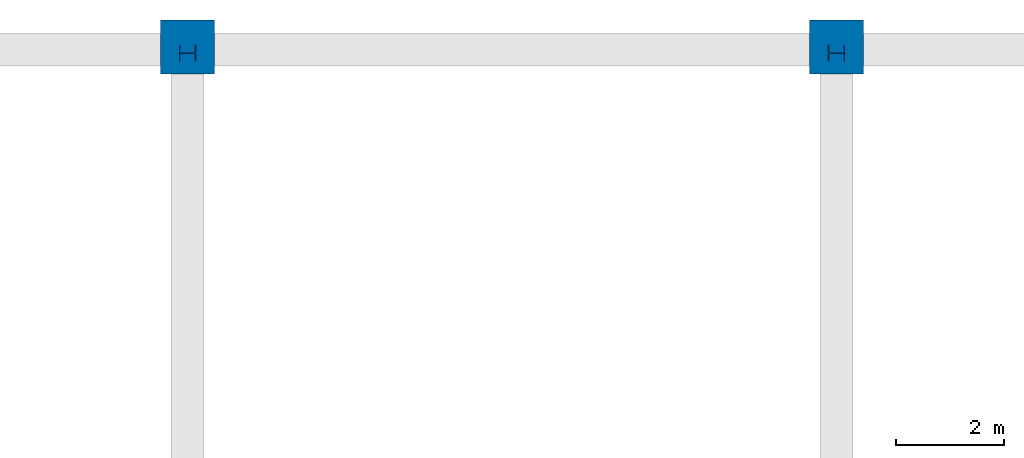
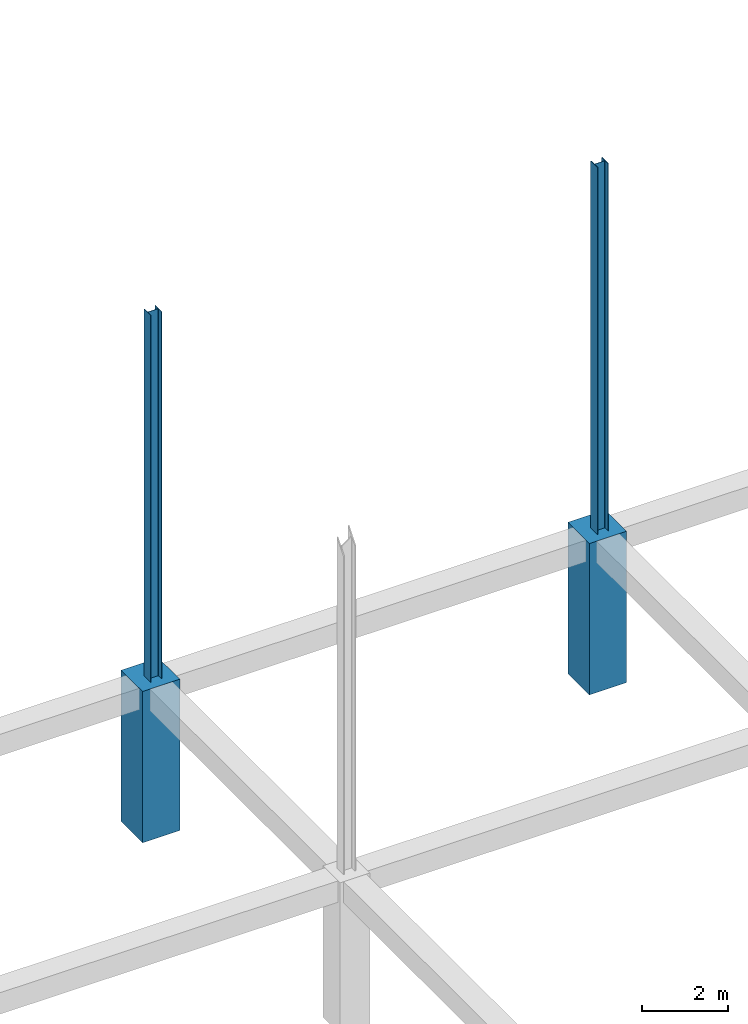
# One storey, part 5 of 19: 4 columns.
"""IFC2X3 building model written with IfcOpenShell, lengths in millimetres."""

from ifc_helpers import new_model, si_unit, origin, place, context, project, spatial, faceted_brep, material, element, save


model = new_model("IFC2X3")

# Units and contexts
context_of_model = context(None, 3, precision=1e-05, world=origin())
ifc_project = project(units=[si_unit("LENGTHUNIT", "METRE", prefix="MILLI")], contexts=[context_of_model])

# Building, storey
building = spatial("IfcBuilding", under=ifc_project, Name="Building", CompositionType="ELEMENT")
storey = spatial("IfcBuildingStorey", under=building, Name="FL2-FRM", CompositionType="ELEMENT")

# Columns
ifc_material_1 = material(Name="C5000")
column_1_placement = place(None, origin())
element("IfcColumn", 1, at=column_1_placement, inside=storey, material=ifc_material_1, Name="Column176", context=context_of_model, shape_type="Brep", body=[
    faceted_brep([(-11500.0, 35617.7, 0.0), (-11500.0, 36617.8, 0.0), (-11500.0, 36617.8, 4296.8), (-11500.0, 35617.7, 4296.8), (-12500.0, 36617.8, 0.0), (-12500.0, 36617.8, 4296.8), (-12500.0, 35617.7, 0.0), (-12500.0, 35617.7, 4296.8)], [[[0, 1, 2, 3]], [[1, 4, 5, 2]], [[4, 6, 7, 5]], [[6, 0, 3, 7]], [[0, 6, 4, 1]], [[3, 2, 5, 7]]]),
])
ifc_material_2 = material(Name="C5000")
column_2_placement = place(None, origin())
element("IfcColumn", 2, at=column_2_placement, inside=storey, material=ifc_material_2, Name="Column177", context=context_of_model, shape_type="Brep", body=[
    faceted_brep([(-23500.0, 35617.7, 0.0), (-23500.0, 36617.8, 0.0), (-23500.0, 36617.8, 4296.8), (-23500.0, 35617.7, 4296.8), (-24500.0, 36617.8, 0.0), (-24500.0, 36617.8, 4296.8), (-24500.0, 35617.7, 0.0), (-24500.0, 35617.7, 4296.8)], [[[0, 1, 2, 3]], [[1, 4, 5, 2]], [[4, 6, 7, 5]], [[6, 0, 3, 7]], [[0, 6, 4, 1]], [[3, 2, 5, 7]]]),
])
ifc_material_3 = material(Name="A992")
column_3_placement = place(None, origin())
element("IfcColumn", 3, at=column_3_placement, inside=storey, material=ifc_material_3, Name="Column284", context=context_of_model, shape_type="Brep", body=[
    faceted_brep([(-23846.0, 35847.5, 4296.8), (-23846.0, 36152.5, 4296.8), (-23846.0, 36152.5, 14719.2), (-23846.0, 35847.5, 14719.2), (-23861.4, 36152.5, 4296.8), (-23861.4, 36152.5, 14719.2), (-23861.4, 36020.1, 4296.8), (-23861.4, 36020.1, 14719.2), (-23861.9, 36016.2, 4296.8), (-23861.9, 36016.2, 14719.2), (-23863.4, 36012.5, 4296.8), (-23863.4, 36012.5, 14719.2), (-23865.9, 36009.4, 4296.8), (-23865.9, 36009.4, 14719.2), (-23869.0, 36007.0, 4296.8), (-23869.0, 36007.0, 14719.2), (-23872.7, 36005.5, 4296.8), (-23872.7, 36005.5, 14719.2), (-23876.6, 36004.9, 4296.8), (-23876.6, 36004.9, 14719.2), (-24123.4, 36004.9, 4296.8), (-24123.4, 36004.9, 14719.2), (-24127.3, 36005.5, 4296.8), (-24127.3, 36005.5, 14719.2), (-24131.0, 36007.0, 4296.8), (-24131.0, 36007.0, 14719.2), (-24134.1, 36009.4, 4296.8), (-24134.1, 36009.4, 14719.2), (-24136.6, 36012.5, 4296.8), (-24136.6, 36012.5, 14719.2), (-24138.1, 36016.2, 4296.8), (-24138.1, 36016.2, 14719.2), (-24138.6, 36020.1, 4296.8), (-24138.6, 36020.1, 14719.2), (-24138.6, 36152.5, 4296.8), (-24138.6, 36152.5, 14719.2), (-24154.0, 36152.5, 4296.8), (-24154.0, 36152.5, 14719.2), (-24154.0, 35847.5, 4296.8), (-24154.0, 35847.5, 14719.2), (-24138.6, 35847.5, 4296.8), (-24138.6, 35847.5, 14719.2), (-24138.6, 35979.9, 4296.8), (-24138.6, 35979.9, 14719.2), (-24138.1, 35983.8, 4296.8), (-24138.1, 35983.8, 14719.2), (-24136.6, 35987.5, 4296.8), (-24136.6, 35987.5, 14719.2), (-24134.1, 35990.6, 4296.8), (-24134.1, 35990.6, 14719.2), (-24131.0, 35993.0, 4296.8), (-24131.0, 35993.0, 14719.2), (-24127.3, 35994.5, 4296.8), (-24127.3, 35994.5, 14719.2), (-24123.4, 35995.1, 4296.8), (-24123.4, 35995.1, 14719.2), (-23876.6, 35995.1, 4296.8), (-23876.6, 35995.1, 14719.2), (-23872.7, 35994.5, 4296.8), (-23872.7, 35994.5, 14719.2), (-23869.0, 35993.0, 4296.8), (-23869.0, 35993.0, 14719.2), (-23865.9, 35990.6, 4296.8), (-23865.9, 35990.6, 14719.2), (-23863.4, 35987.5, 4296.8), (-23863.4, 35987.5, 14719.2), (-23861.9, 35983.8, 4296.8), (-23861.9, 35983.8, 14719.2), (-23861.4, 35979.9, 4296.8), (-23861.4, 35979.9, 14719.2), (-23861.4, 35847.5, 4296.8), (-23861.4, 35847.5, 14719.2)], [[[0, 1, 2, 3]], [[1, 4, 5, 2]], [[4, 6, 7, 5]], [[6, 8, 9, 7]], [[8, 10, 11, 9]], [[10, 12, 13, 11]], [[12, 14, 15, 13]], [[14, 16, 17, 15]], [[16, 18, 19, 17]], [[18, 20, 21, 19]], [[20, 22, 23, 21]], [[22, 24, 25, 23]], [[24, 26, 27, 25]], [[26, 28, 29, 27]], [[28, 30, 31, 29]], [[30, 32, 33, 31]], [[32, 34, 35, 33]], [[34, 36, 37, 35]], [[36, 38, 39, 37]], [[38, 40, 41, 39]], [[40, 42, 43, 41]], [[42, 44, 45, 43]], [[44, 46, 47, 45]], [[46, 48, 49, 47]], [[48, 50, 51, 49]], [[50, 52, 53, 51]], [[52, 54, 55, 53]], [[54, 56, 57, 55]], [[56, 58, 59, 57]], [[58, 60, 61, 59]], [[60, 62, 63, 61]], [[62, 64, 65, 63]], [[64, 66, 67, 65]], [[66, 68, 69, 67]], [[68, 70, 71, 69]], [[70, 0, 3, 71]], [[0, 70, 68, 66, 64, 62, 60, 58, 56, 54, 52, 50, 48, 46, 44, 42, 40, 38, 36, 34, 32, 30, 28, 26, 24, 22, 20, 18, 16, 14, 12, 10, 8, 6, 4, 1]], [[3, 2, 5, 7, 9, 11, 13, 15, 17, 19, 21, 23, 25, 27, 29, 31, 33, 35, 37, 39, 41, 43, 45, 47, 49, 51, 53, 55, 57, 59, 61, 63, 65, 67, 69, 71]]]),
])
ifc_material_4 = material(Name="A992")
column_4_placement = place(None, origin())
element("IfcColumn", 4, at=column_4_placement, inside=storey, material=ifc_material_4, Name="Column290", context=context_of_model, shape_type="Brep", body=[
    faceted_brep([(-11846.0, 35847.5, 4296.8), (-11846.0, 36152.5, 4296.8), (-11846.0, 36152.5, 14719.2), (-11846.0, 35847.5, 14719.2), (-11861.4, 36152.5, 4296.8), (-11861.4, 36152.5, 14719.2), (-11861.4, 36020.1, 4296.8), (-11861.4, 36020.1, 14719.2), (-11861.9, 36016.2, 4296.8), (-11861.9, 36016.2, 14719.2), (-11863.4, 36012.5, 4296.8), (-11863.4, 36012.5, 14719.2), (-11865.9, 36009.4, 4296.8), (-11865.9, 36009.4, 14719.2), (-11869.0, 36007.0, 4296.8), (-11869.0, 36007.0, 14719.2), (-11872.7, 36005.5, 4296.8), (-11872.7, 36005.5, 14719.2), (-11876.6, 36004.9, 4296.8), (-11876.6, 36004.9, 14719.2), (-12123.4, 36004.9, 4296.8), (-12123.4, 36004.9, 14719.2), (-12127.3, 36005.5, 4296.8), (-12127.3, 36005.5, 14719.2), (-12131.0, 36007.0, 4296.8), (-12131.0, 36007.0, 14719.2), (-12134.1, 36009.4, 4296.8), (-12134.1, 36009.4, 14719.2), (-12136.6, 36012.5, 4296.8), (-12136.6, 36012.5, 14719.2), (-12138.1, 36016.2, 4296.8), (-12138.1, 36016.2, 14719.2), (-12138.6, 36020.1, 4296.8), (-12138.6, 36020.1, 14719.2), (-12138.6, 36152.5, 4296.8), (-12138.6, 36152.5, 14719.2), (-12154.0, 36152.5, 4296.8), (-12154.0, 36152.5, 14719.2), (-12154.0, 35847.5, 4296.8), (-12154.0, 35847.5, 14719.2), (-12138.6, 35847.5, 4296.8), (-12138.6, 35847.5, 14719.2), (-12138.6, 35979.9, 4296.8), (-12138.6, 35979.9, 14719.2), (-12138.1, 35983.8, 4296.8), (-12138.1, 35983.8, 14719.2), (-12136.6, 35987.5, 4296.8), (-12136.6, 35987.5, 14719.2), (-12134.1, 35990.6, 4296.8), (-12134.1, 35990.6, 14719.2), (-12131.0, 35993.0, 4296.8), (-12131.0, 35993.0, 14719.2), (-12127.3, 35994.5, 4296.8), (-12127.3, 35994.5, 14719.2), (-12123.4, 35995.1, 4296.8), (-12123.4, 35995.1, 14719.2), (-11876.6, 35995.1, 4296.8), (-11876.6, 35995.1, 14719.2), (-11872.7, 35994.5, 4296.8), (-11872.7, 35994.5, 14719.2), (-11869.0, 35993.0, 4296.8), (-11869.0, 35993.0, 14719.2), (-11865.9, 35990.6, 4296.8), (-11865.9, 35990.6, 14719.2), (-11863.4, 35987.5, 4296.8), (-11863.4, 35987.5, 14719.2), (-11861.9, 35983.8, 4296.8), (-11861.9, 35983.8, 14719.2), (-11861.4, 35979.9, 4296.8), (-11861.4, 35979.9, 14719.2), (-11861.4, 35847.5, 4296.8), (-11861.4, 35847.5, 14719.2)], [[[0, 1, 2, 3]], [[1, 4, 5, 2]], [[4, 6, 7, 5]], [[6, 8, 9, 7]], [[8, 10, 11, 9]], [[10, 12, 13, 11]], [[12, 14, 15, 13]], [[14, 16, 17, 15]], [[16, 18, 19, 17]], [[18, 20, 21, 19]], [[20, 22, 23, 21]], [[22, 24, 25, 23]], [[24, 26, 27, 25]], [[26, 28, 29, 27]], [[28, 30, 31, 29]], [[30, 32, 33, 31]], [[32, 34, 35, 33]], [[34, 36, 37, 35]], [[36, 38, 39, 37]], [[38, 40, 41, 39]], [[40, 42, 43, 41]], [[42, 44, 45, 43]], [[44, 46, 47, 45]], [[46, 48, 49, 47]], [[48, 50, 51, 49]], [[50, 52, 53, 51]], [[52, 54, 55, 53]], [[54, 56, 57, 55]], [[56, 58, 59, 57]], [[58, 60, 61, 59]], [[60, 62, 63, 61]], [[62, 64, 65, 63]], [[64, 66, 67, 65]], [[66, 68, 69, 67]], [[68, 70, 71, 69]], [[70, 0, 3, 71]], [[0, 70, 68, 66, 64, 62, 60, 58, 56, 54, 52, 50, 48, 46, 44, 42, 40, 38, 36, 34, 32, 30, 28, 26, 24, 22, 20, 18, 16, 14, 12, 10, 8, 6, 4, 1]], [[3, 2, 5, 7, 9, 11, 13, 15, 17, 19, 21, 23, 25, 27, 29, 31, 33, 35, 37, 39, 41, 43, 45, 47, 49, 51, 53, 55, 57, 59, 61, 63, 65, 67, 69, 71]]]),
])

save(model, "model.ifc")
